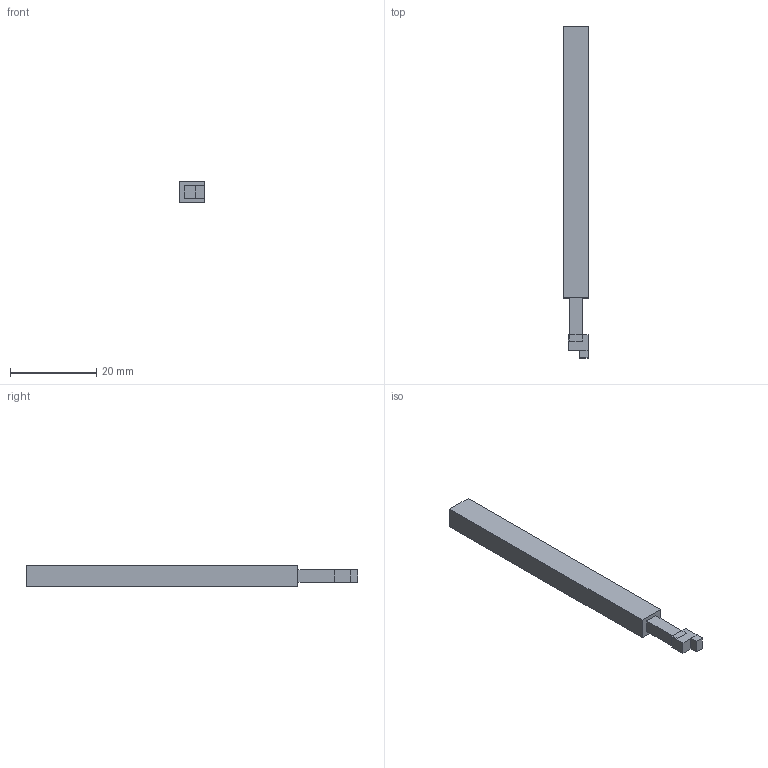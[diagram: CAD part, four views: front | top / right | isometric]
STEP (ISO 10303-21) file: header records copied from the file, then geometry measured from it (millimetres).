
FILE_DESCRIPTION(('Open CASCADE Model'),'2;1');
FILE_NAME('Open CASCADE Shape Model','2026-11-22T21:42:01',('Author'),( 'Open CASCADE'),'Open CASCADE STEP processor 7.9','Open CASCADE 7.9' ,'Unknown');
FILE_SCHEMA(('AUTOMOTIVE_DESIGN { 1 0 10303 214 1 1 1 1 }'));
Length unit declared in the file: millimetre
Products named in the file (1): Open CASCADE STEP translator 7.9 3
Bounding box: 6 x 76.9 x 5 mm (x, y, z)
Volume: 2005 mm3; surface area: 1675.3 mm2
Topology: 1 solids, 1 shells, 26 faces, 58 edges, 36 vertices
Faces by surface type: plane 25, cylinder 1
Full cylindrical faces by diameter (mm): 2.05 x1
Entity records: 1455 total; most frequent: CARTESIAN_POINT 255, DIRECTION 217, LINE 158, VECTOR 158, ORIENTED_EDGE 116, PCURVE 116, DEFINITIONAL_REPRESENTATION 116, EDGE_CURVE 58
